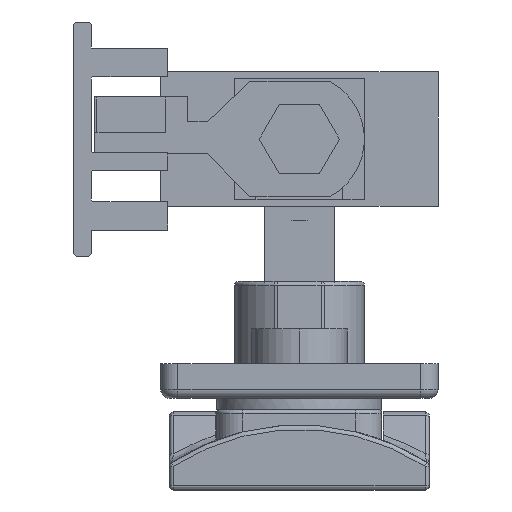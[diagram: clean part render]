
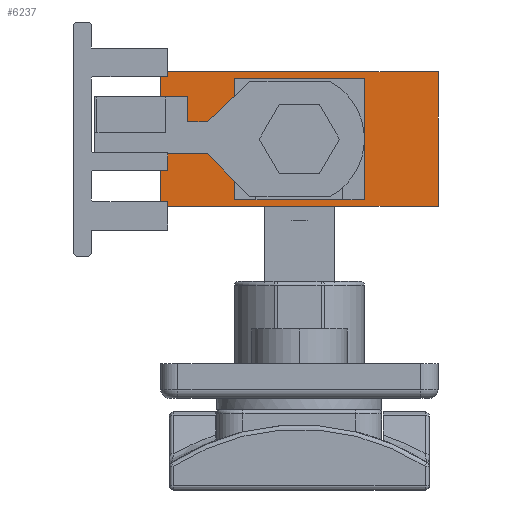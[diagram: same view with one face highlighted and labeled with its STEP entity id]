
A CAD part, front view. The second image highlights one B-rep face of the part: STEP entity #6237.
In plain terms, the highlighted planar face has unit normal (0, -1, 0).
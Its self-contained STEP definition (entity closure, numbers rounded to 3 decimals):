
#416 = EDGE_LOOP ( 'NONE', ( #14872, #4691, #4356, #1799 ) ) ;
#420 = EDGE_CURVE ( 'NONE', #6697, #18923, #2373, .T. ) ;
#676 = ORIENTED_EDGE ( 'NONE', *, *, #2284, .F. ) ;
#921 = CARTESIAN_POINT ( 'NONE',  ( 7., -72.75, -6.25 ) ) ;
#1105 = VECTOR ( 'NONE', #1577, 1000. ) ;
#1521 = PLANE ( 'NONE',  #15769 ) ;
#1577 = DIRECTION ( 'NONE',  ( 0., 0., -1. ) ) ;
#1732 = VERTEX_POINT ( 'NONE', #921 ) ;
#1799 = ORIENTED_EDGE ( 'NONE', *, *, #7230, .F. ) ;
#2284 = EDGE_CURVE ( 'NONE', #6697, #4085, #11520, .T. ) ;
#2373 = LINE ( 'NONE', #14283, #7545 ) ;
#2435 = VECTOR ( 'NONE', #19154, 1000. ) ;
#2775 = LINE ( 'NONE', #14675, #9258 ) ;
#2900 = CARTESIAN_POINT ( 'NONE',  ( -7., -72.75, 6.25 ) ) ;
#3236 = CARTESIAN_POINT ( 'NONE',  ( -7., -72.75, -6.25 ) ) ;
#3360 = DIRECTION ( 'NONE',  ( -1., 0., 0. ) ) ;
#3493 = LINE ( 'NONE', #5058, #7691 ) ;
#3534 = EDGE_CURVE ( 'NONE', #4085, #8789, #9277, .T. ) ;
#3827 = VERTEX_POINT ( 'NONE', #18828 ) ;
#3835 = DIRECTION ( 'NONE',  ( 0., 0., 1. ) ) ;
#4085 = VERTEX_POINT ( 'NONE', #7307 ) ;
#4246 = CARTESIAN_POINT ( 'NONE',  ( -7., -72.75, -6.25 ) ) ;
#4356 = ORIENTED_EDGE ( 'NONE', *, *, #15692, .F. ) ;
#4691 = ORIENTED_EDGE ( 'NONE', *, *, #11792, .F. ) ;
#4744 = VECTOR ( 'NONE', #3360, 1000. ) ;
#5058 = CARTESIAN_POINT ( 'NONE',  ( -16., -72.75, -7.75 ) ) ;
#5237 = VECTOR ( 'NONE', #3835, 1000. ) ;
#6167 = ORIENTED_EDGE ( 'NONE', *, *, #15047, .T. ) ;
#6237 = ADVANCED_FACE ( 'NONE', ( #16444, #13333 ), #1521, .F. ) ;
#6572 = CARTESIAN_POINT ( 'NONE',  ( -16., -72.75, -7.75 ) ) ;
#6697 = VERTEX_POINT ( 'NONE', #12965 ) ;
#7230 = EDGE_CURVE ( 'NONE', #13001, #1732, #2775, .T. ) ;
#7307 = CARTESIAN_POINT ( 'NONE',  ( 16., -72.75, 7.75 ) ) ;
#7545 = VECTOR ( 'NONE', #9590, 1000. ) ;
#7691 = VECTOR ( 'NONE', #15089, 1000. ) ;
#8789 = VERTEX_POINT ( 'NONE', #14622 ) ;
#9258 = VECTOR ( 'NONE', #10088, 1000. ) ;
#9277 = LINE ( 'NONE', #11929, #1105 ) ;
#9509 = ORIENTED_EDGE ( 'NONE', *, *, #420, .T. ) ;
#9590 = DIRECTION ( 'NONE',  ( 0., 0., -1. ) ) ;
#9662 = LINE ( 'NONE', #11145, #5237 ) ;
#10088 = DIRECTION ( 'NONE',  ( 1., 0., 0. ) ) ;
#10504 = DIRECTION ( 'NONE',  ( 0., 1., 0. ) ) ;
#10653 = VERTEX_POINT ( 'NONE', #2900 ) ;
#11145 = CARTESIAN_POINT ( 'NONE',  ( 7., -72.75, 6.25 ) ) ;
#11520 = LINE ( 'NONE', #16089, #13220 ) ;
#11792 = EDGE_CURVE ( 'NONE', #3827, #10653, #12224, .T. ) ;
#11929 = CARTESIAN_POINT ( 'NONE',  ( 16., -72.75, 7.75 ) ) ;
#12184 = EDGE_LOOP ( 'NONE', ( #6167, #16102, #676, #9509 ) ) ;
#12224 = LINE ( 'NONE', #14959, #4744 ) ;
#12965 = CARTESIAN_POINT ( 'NONE',  ( -16., -72.75, 7.75 ) ) ;
#13001 = VERTEX_POINT ( 'NONE', #3236 ) ;
#13220 = VECTOR ( 'NONE', #17458, 1000. ) ;
#13333 = FACE_OUTER_BOUND ( 'NONE', #12184, .T. ) ;
#14283 = CARTESIAN_POINT ( 'NONE',  ( -16., -72.75, 7.75 ) ) ;
#14573 = LINE ( 'NONE', #4246, #2435 ) ;
#14622 = CARTESIAN_POINT ( 'NONE',  ( 16., -72.75, -7.75 ) ) ;
#14675 = CARTESIAN_POINT ( 'NONE',  ( -7., -72.75, -6.25 ) ) ;
#14872 = ORIENTED_EDGE ( 'NONE', *, *, #16083, .F. ) ;
#14959 = CARTESIAN_POINT ( 'NONE',  ( 7., -72.75, 6.25 ) ) ;
#15047 = EDGE_CURVE ( 'NONE', #18923, #8789, #3493, .T. ) ;
#15072 = CARTESIAN_POINT ( 'NONE',  ( -16., -72.75, 7.75 ) ) ;
#15089 = DIRECTION ( 'NONE',  ( 1., 0., 0. ) ) ;
#15692 = EDGE_CURVE ( 'NONE', #1732, #3827, #9662, .T. ) ;
#15769 = AXIS2_PLACEMENT_3D ( 'NONE', #15072, #10504, #18101 ) ;
#16083 = EDGE_CURVE ( 'NONE', #10653, #13001, #14573, .T. ) ;
#16089 = CARTESIAN_POINT ( 'NONE',  ( -16., -72.75, 7.75 ) ) ;
#16102 = ORIENTED_EDGE ( 'NONE', *, *, #3534, .F. ) ;
#16444 = FACE_BOUND ( 'NONE', #416, .T. ) ;
#17458 = DIRECTION ( 'NONE',  ( 1., 0., 0. ) ) ;
#18101 = DIRECTION ( 'NONE',  ( 0., 0., 1. ) ) ;
#18828 = CARTESIAN_POINT ( 'NONE',  ( 7., -72.75, 6.25 ) ) ;
#18923 = VERTEX_POINT ( 'NONE', #6572 ) ;
#19154 = DIRECTION ( 'NONE',  ( 0., 0., -1. ) ) ;
